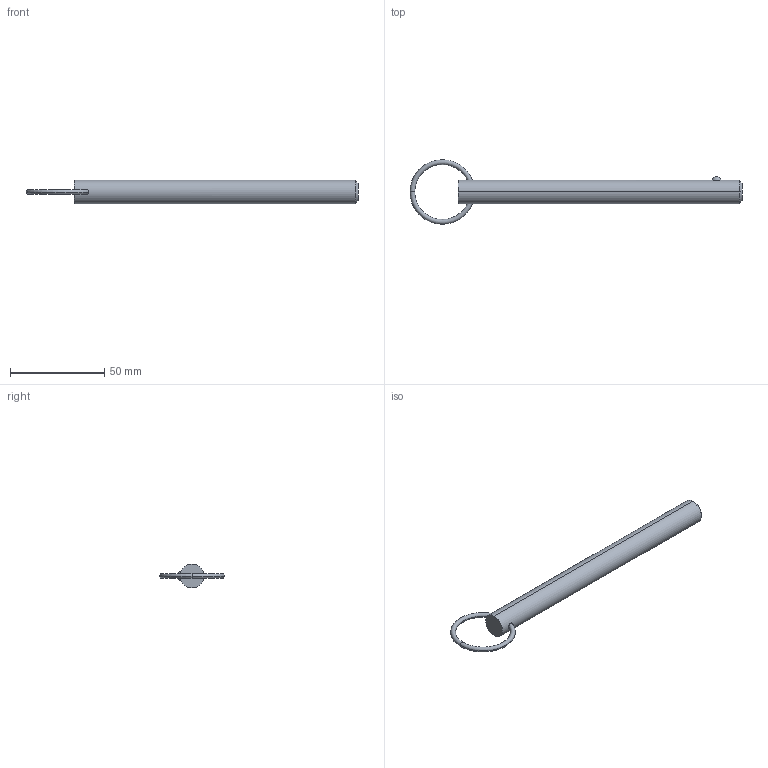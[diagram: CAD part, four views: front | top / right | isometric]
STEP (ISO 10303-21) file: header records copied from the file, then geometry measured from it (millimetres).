
FILE_DESCRIPTION (( 'STEP AP203' ), '1' );
FILE_NAME ('33012.W5050.step', '2024-11-01T14:13:48', ( '' ), ( '' ), 'SwSTEP 2.0', 'SolidWorks 2019', '' );
FILE_SCHEMA (( 'CONFIG_CONTROL_DESIGN' ));
Length unit declared in the file: millimetre
Products named in the file (3): Part1_33012.W5050; 33012.W5050; Part2_33012.W5050
Assembly tree (2 placements, depth 2):
  33012.W5050
    Part1_33012.W5050
    Part2_33012.W5050
Bounding box: 176.29 x 34.29 x 12.7 mm (x, y, z)
Volume: 19479.7 mm3; surface area: 7148.8 mm2
Topology: 2 solids, 2 shells, 16 faces, 31 edges, 18 vertices
Faces by surface type: torus 8, sphere 2, cone 2, cylinder 2, plane 2
Entity records: 885 total; most frequent: CARTESIAN_POINT 242, DIRECTION 88, ORIENTED_EDGE 62, AXIS2_PLACEMENT_3D 42, EDGE_CURVE 31, PERSON_AND_ORGANIZATION 26, CIRCLE 21, DATE_AND_TIME 19
